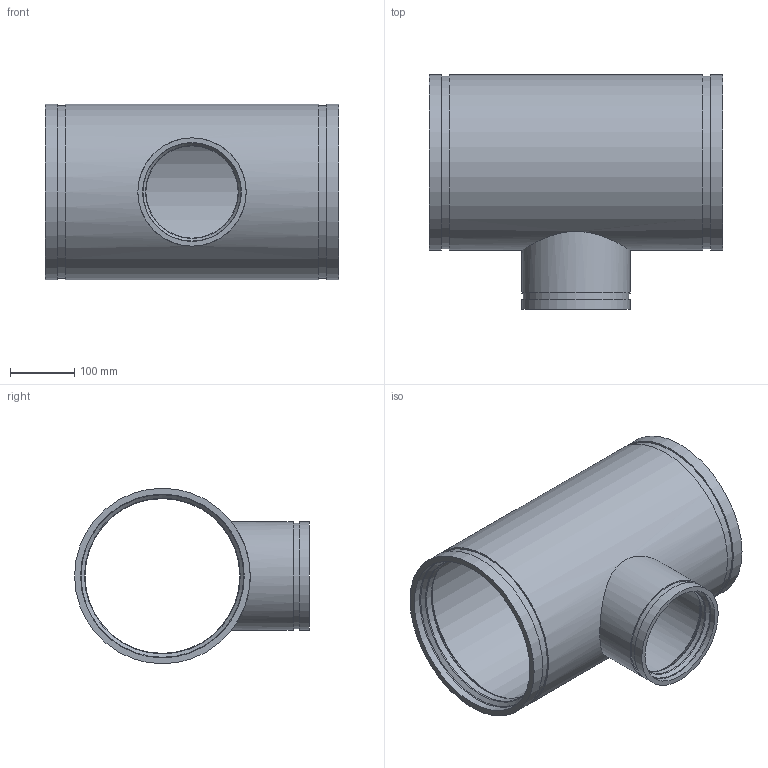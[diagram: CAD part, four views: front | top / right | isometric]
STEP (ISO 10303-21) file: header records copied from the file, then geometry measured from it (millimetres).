
FILE_DESCRIPTION(/* description */ ('VIC REDUCING TEE No 425H-SS','CAx-IF Rec.Pracs.---Representation and Presentation of Product Manufacturing Information (PMI)---4.0---2014-10-13'),/* implementation_level */ '2;1');
FILE_NAME(/* name */ 'C:\Users\kkamble\AppData\Roaming\Autodesk\ApplicationPlugins\Back Up\Victaulic_SS-OGS_Tee Reducing_Sched 40S_No 425H SS (OGS)\Victaulic_SS-OGS_Tee Reducing_Sched 40S_No 425H SS (OGS)_10.0x06.0 (250x150).stp',/* time_stamp */ '2020-08-27T17:20:27+06:00',/* author */ ('CORINNE GRAY'),/* organization */ ('Victaulic'),/* preprocessor_version */ 'ST-DEVELOPER v17.2',/* originating_system */ 'Autodesk Inventor 2019',/* authorisation */ '');
FILE_SCHEMA (('AP242_MANAGED_MODEL_BASED_3D_ENGINEERING_MIM_LF { 1 0 10303 442 1 1 4 }'));
Length unit declared in the file: inch
Products named in the file (1): 425H SS-10.0x06.0
Bounding box: 457.2 x 365.12 x 273.05 mm (x, y, z)
Volume: 3900325.9 mm3; surface area: 862839.6 mm2
Topology: 1 solids, 1 shells, 43 faces, 134 edges, 100 vertices
Faces by surface type: cylinder 16, torus 12, plane 9, cone 6
Full cylindrical faces by diameter (mm): 143.383 x1, 153.67 x2, 163.957 x1, 168.275 x2, 240.741 x2, 254.508 x3, 268.275 x2, 273.05 x3
Entity records: 1919 total; most frequent: CARTESIAN_POINT 427, DIRECTION 352, ORIENTED_EDGE 268, AXIS2_PLACEMENT_3D 165, EDGE_CURVE 134, CIRCLE 108, VERTEX_POINT 100, EDGE_LOOP 54
